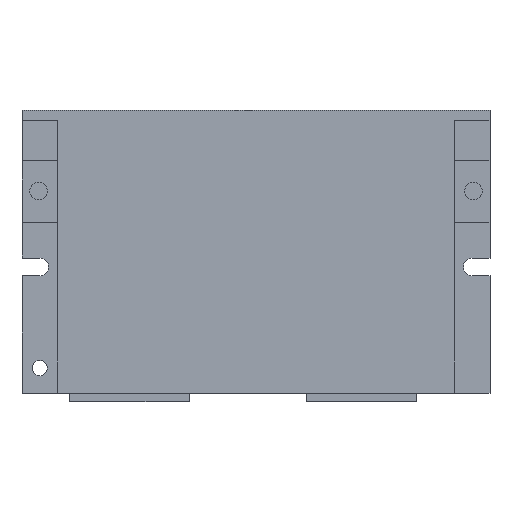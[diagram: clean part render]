
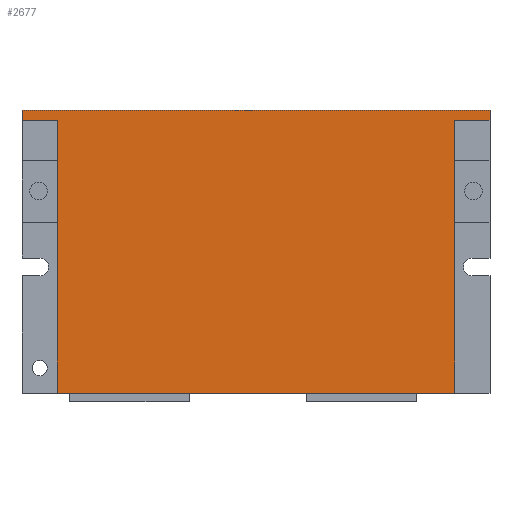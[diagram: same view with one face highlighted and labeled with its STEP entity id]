
A CAD part, top view. The second image highlights one B-rep face of the part: STEP entity #2677.
In plain terms, the highlighted planar face has unit normal (0, 0, 1).
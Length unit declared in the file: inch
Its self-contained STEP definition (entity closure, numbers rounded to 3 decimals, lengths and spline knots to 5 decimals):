
#789=DIRECTION('',(-1.,0.,0.));
#790=VECTOR('',#789,3.64567);
#791=CARTESIAN_POINT('',(1.82283,1.10236,0.8189));
#792=LINE('',#791,#790);
#793=DIRECTION('',(0.,1.,0.));
#794=VECTOR('',#793,0.07874);
#795=CARTESIAN_POINT('',(1.82283,1.02362,0.8189));
#796=LINE('',#795,#794);
#797=DIRECTION('',(1.,0.,0.));
#798=VECTOR('',#797,3.09449);
#799=CARTESIAN_POINT('',(-1.54724,-1.10236,
0.8189));
#800=LINE('',#799,#798);
#801=DIRECTION('',(0.,-1.,0.));
#802=VECTOR('',#801,2.12598);
#803=CARTESIAN_POINT('',(-1.54724,1.02362,0.8189));
#804=LINE('',#803,#802);
#805=DIRECTION('',(1.,0.,0.));
#806=VECTOR('',#805,0.27559);
#807=CARTESIAN_POINT('',(-1.82283,1.02362,0.8189));
#808=LINE('',#807,#806);
#809=DIRECTION('',(0.,-1.,0.));
#810=VECTOR('',#809,0.07874);
#811=CARTESIAN_POINT('',(-1.82283,1.10236,0.8189));
#812=LINE('',#811,#810);
#813=DIRECTION('',(-1.,0.,0.));
#814=VECTOR('',#813,0.27559);
#815=CARTESIAN_POINT('',(1.82283,1.02362,0.8189));
#816=LINE('',#815,#814);
#891=DIRECTION('',(0.,-1.,0.));
#892=VECTOR('',#891,2.12598);
#893=CARTESIAN_POINT('',(1.54724,1.02362,0.8189));
#894=LINE('',#893,#892);
#1287=CARTESIAN_POINT('',(-1.54724,1.02362,
0.8189));
#1288=VERTEX_POINT('',#1287);
#1289=CARTESIAN_POINT('',(-1.54724,-1.10236,
0.8189));
#1290=VERTEX_POINT('',#1289);
#1291=CARTESIAN_POINT('',(-1.82283,1.02362,
0.8189));
#1292=VERTEX_POINT('',#1291);
#1293=CARTESIAN_POINT('',(-1.82283,1.10236,
0.8189));
#1294=VERTEX_POINT('',#1293);
#1299=CARTESIAN_POINT('',(1.82283,1.02362,0.8189));
#1300=VERTEX_POINT('',#1299);
#1301=CARTESIAN_POINT('',(1.82283,1.10236,0.8189));
#1302=VERTEX_POINT('',#1301);
#1335=CARTESIAN_POINT('',(1.54724,-1.10236,
0.8189));
#1336=VERTEX_POINT('',#1335);
#1337=CARTESIAN_POINT('',(1.54724,1.02362,0.8189));
#1338=VERTEX_POINT('',#1337);
#2660=CARTESIAN_POINT('',(0.,0.,0.8189));
#2661=DIRECTION('',(0.,0.,-1.));
#2662=DIRECTION('',(1.,0.,0.));
#2663=AXIS2_PLACEMENT_3D('',#2660,#2661,#2662);
#2664=PLANE('',#2663);
#2665=ORIENTED_EDGE('',*,*,#2437,.F.);
#2666=ORIENTED_EDGE('',*,*,#2376,.F.);
#2668=ORIENTED_EDGE('',*,*,#2667,.T.);
#2670=ORIENTED_EDGE('',*,*,#2669,.T.);
#2671=ORIENTED_EDGE('',*,*,#2627,.F.);
#2672=ORIENTED_EDGE('',*,*,#2326,.F.);
#2673=ORIENTED_EDGE('',*,*,#2348,.F.);
#2674=ORIENTED_EDGE('',*,*,#2361,.F.);
#2675=EDGE_LOOP('',(#2665,#2666,#2668,#2670,#2671,#2672,#2673,#2674));
#2676=FACE_OUTER_BOUND('',#2675,.F.);
#2677=ADVANCED_FACE('',(#2676),#2664,.F.);
#2326=EDGE_CURVE('',#1288,#1290,#804,.T.);
#2348=EDGE_CURVE('',#1292,#1288,#808,.T.);
#2361=EDGE_CURVE('',#1294,#1292,#812,.T.);
#2376=EDGE_CURVE('',#1300,#1302,#796,.T.);
#2437=EDGE_CURVE('',#1302,#1294,#792,.T.);
#2627=EDGE_CURVE('',#1290,#1336,#800,.T.);
#2667=EDGE_CURVE('',#1300,#1338,#816,.T.);
#2669=EDGE_CURVE('',#1338,#1336,#894,.T.);
